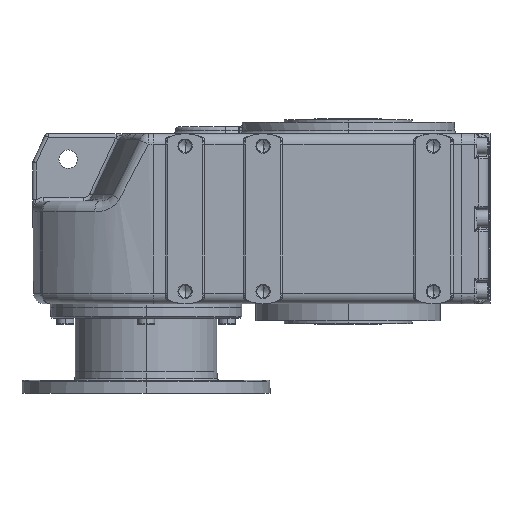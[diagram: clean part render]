
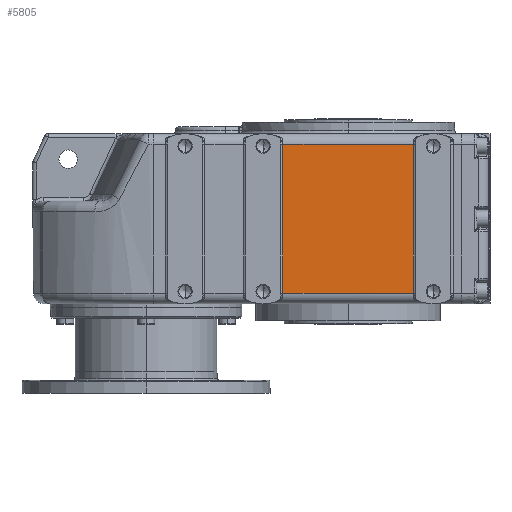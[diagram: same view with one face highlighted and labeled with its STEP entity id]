
A CAD part, left-side view. The second image highlights one B-rep face of the part: STEP entity #5805.
In plain terms, the highlighted planar face has unit normal (-1, 0, 0).
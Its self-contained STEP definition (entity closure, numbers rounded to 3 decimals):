
#5600 = VERTEX_POINT ( 'NONE', #42996 ) ;
#5601 = VERTEX_POINT ( 'NONE', #42995 ) ;
#5630 = EDGE_CURVE ( 'NONE', #5600, #5601, #43078, .T. ) ;
#5724 = VERTEX_POINT ( 'NONE', #43389 ) ;
#5726 = EDGE_CURVE ( 'NONE', #5727, #5724, #43388, .T. ) ;
#5727 = VERTEX_POINT ( 'NONE', #43436 ) ;
#5805 = ADVANCED_FACE ( 'NONE', ( #43614 ), #43620, .F. ) ;
#5806 = EDGE_LOOP ( 'NONE', ( #5807, #5808, #5810, #5811 ) ) ;
#5807 = ORIENTED_EDGE ( 'NONE', *, *, #5726, .T. ) ;
#5808 = ORIENTED_EDGE ( 'NONE', *, *, #5809, .T. ) ;
#5809 = EDGE_CURVE ( 'NONE', #5724, #5600, #43671, .T. ) ;
#5810 = ORIENTED_EDGE ( 'NONE', *, *, #5630, .T. ) ;
#5811 = ORIENTED_EDGE ( 'NONE', *, *, #5812, .T. ) ;
#5812 = EDGE_CURVE ( 'NONE', #5601, #5727, #43667, .T. ) ;
#42995 = CARTESIAN_POINT ( 'NONE',  ( -197.5, 92.042, 225. ) ) ;
#42996 = CARTESIAN_POINT ( 'NONE',  ( -197.5, -92.042, 225. ) ) ;
#43075 = DIRECTION ( 'NONE',  ( 0., 1., 0. ) ) ;
#43076 = VECTOR ( 'NONE', #43075, 1000. ) ;
#43077 = CARTESIAN_POINT ( 'NONE',  ( -197.5, 275., 225. ) ) ;
#43078 = LINE ( 'NONE', #43077, #43076 ) ;
#43388 = LINE ( 'NONE', #43439, #43438 ) ;
#43389 = CARTESIAN_POINT ( 'NONE',  ( -197.5, -92.042, 15. ) ) ;
#43436 = CARTESIAN_POINT ( 'NONE',  ( -197.5, 92.042, 15. ) ) ;
#43437 = DIRECTION ( 'NONE',  ( 0., -1., 0. ) ) ;
#43438 = VECTOR ( 'NONE', #43437, 1000. ) ;
#43439 = CARTESIAN_POINT ( 'NONE',  ( -197.5, 275., 15. ) ) ;
#43614 = FACE_OUTER_BOUND ( 'NONE', #5806, .T. ) ;
#43620 = PLANE ( 'NONE',  #43675 ) ;
#43664 = DIRECTION ( 'NONE',  ( 0., 0., -1. ) ) ;
#43665 = VECTOR ( 'NONE', #43664, 1000. ) ;
#43666 = CARTESIAN_POINT ( 'NONE',  ( -197.5, 92.042, 240. ) ) ;
#43667 = LINE ( 'NONE', #43666, #43665 ) ;
#43668 = DIRECTION ( 'NONE',  ( 0., 0., 1. ) ) ;
#43669 = VECTOR ( 'NONE', #43668, 1000. ) ;
#43670 = CARTESIAN_POINT ( 'NONE',  ( -197.5, -92.042, 240. ) ) ;
#43671 = LINE ( 'NONE', #43670, #43669 ) ;
#43672 = DIRECTION ( 'NONE',  ( 0., 1., 0. ) ) ;
#43673 = DIRECTION ( 'NONE',  ( 1., 0., 0. ) ) ;
#43674 = CARTESIAN_POINT ( 'NONE',  ( -197.5, 275., 240. ) ) ;
#43675 = AXIS2_PLACEMENT_3D ( 'NONE', #43674, #43673, #43672 ) ;
